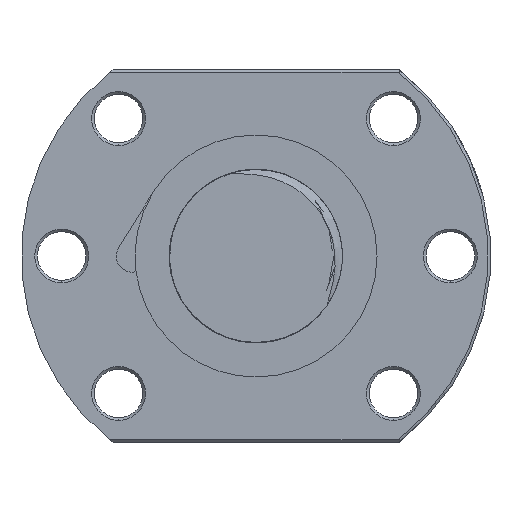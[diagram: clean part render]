
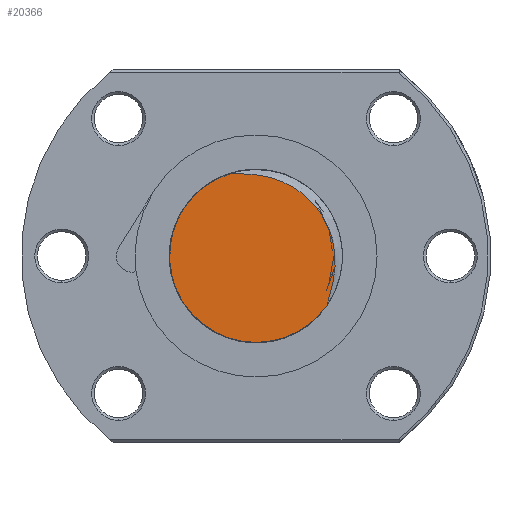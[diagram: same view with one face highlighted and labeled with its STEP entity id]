
A CAD part, left-side view. The second image highlights one B-rep face of the part: STEP entity #20366.
In plain terms, the highlighted planar face has unit normal (-1, 0, 0).
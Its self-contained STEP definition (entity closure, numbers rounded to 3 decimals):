
#667 = EDGE_CURVE ( 'NONE', #887, #797, #21647, .T. ) ;
#797 = VERTEX_POINT ( 'NONE', #22060 ) ;
#887 = VERTEX_POINT ( 'NONE', #22707 ) ;
#2801 = CARTESIAN_POINT ( 'NONE',  ( -176., -13.965, -6.145 ) ) ;
#2802 = CARTESIAN_POINT ( 'NONE',  ( -176., -13.645, -7.248 ) ) ;
#2803 = CARTESIAN_POINT ( 'NONE',  ( -176., -13.532, -7.614 ) ) ;
#2804 = CARTESIAN_POINT ( 'NONE',  ( -176., -13.37, -8.166 ) ) ;
#2805 = CARTESIAN_POINT ( 'NONE',  ( -176., -13.317, -8.35 ) ) ;
#2806 = CARTESIAN_POINT ( 'NONE',  ( -176., -13.223, -8.721 ) ) ;
#2807 = CARTESIAN_POINT ( 'NONE',  ( -176., -13.179, -8.909 ) ) ;
#2808 = CARTESIAN_POINT ( 'NONE',  ( -176., -13.16, -9.1 ) ) ;
#2809 = B_SPLINE_CURVE_WITH_KNOTS ( 'NONE', 3,
 ( #2808, #2807, #2806, #2805, #2804, #2803, #2802, #2801, #2859, #2858, #2857, #2856, #2855, #2854, #2853, #2852, #2851, #2850, #2849, #2848, #2847, #2846, #2845, #2844, #2843, #2842, #2841, #2840, #2839, #2838, #2837, #2836, #2835, #2834, #2833, #2832, #2831, #2830, #2829, #2828, #2827, #2826 ),
 .UNSPECIFIED., .F., .F.,
 ( 4, 2, 2, 2, 2, 2, 2, 2, 2, 2, 2, 2, 2, 2, 2, 2, 2, 2, 2, 2, 4 ),
 ( 0.005, 0.005, 0.006, 0.007, 0.009, 0.014, 0.015, 0.016, 0.019, 0.02, 0.021, 0.023, 0.025, 0.028, 0.03, 0.032, 0.037, 0.039, 0.04, 0.041, 0.041 ),
 .UNSPECIFIED. ) ;
#2817 = DIRECTION ( 'NONE',  ( 1., 0., 0. ) ) ;
#2818 = CARTESIAN_POINT ( 'NONE',  ( -176., 0., 0. ) ) ;
#2819 = AXIS2_PLACEMENT_3D ( 'NONE', #2818, #2817, #2892 ) ;
#2820 = PLANE ( 'NONE',  #2819 ) ;
#2821 = FACE_OUTER_BOUND ( 'NONE', #20365, .T. ) ;
#2826 = CARTESIAN_POINT ( 'NONE',  ( -176., 4.588, 15.328 ) ) ;
#2827 = CARTESIAN_POINT ( 'NONE',  ( -176., 4.397, 15.287 ) ) ;
#2828 = CARTESIAN_POINT ( 'NONE',  ( -176., 4.205, 15.271 ) ) ;
#2829 = CARTESIAN_POINT ( 'NONE',  ( -176., 3.82, 15.246 ) ) ;
#2830 = CARTESIAN_POINT ( 'NONE',  ( -176., 3.628, 15.239 ) ) ;
#2831 = CARTESIAN_POINT ( 'NONE',  ( -176., 3.05, 15.223 ) ) ;
#2832 = CARTESIAN_POINT ( 'NONE',  ( -176., 2.664, 15.217 ) ) ;
#2833 = CARTESIAN_POINT ( 'NONE',  ( -176., 1.508, 15.18 ) ) ;
#2834 = CARTESIAN_POINT ( 'NONE',  ( -176., 0.739, 15.131 ) ) ;
#2835 = CARTESIAN_POINT ( 'NONE',  ( -176., -1.557, 14.853 ) ) ;
#2836 = CARTESIAN_POINT ( 'NONE',  ( -176., -3.041, 14.496 ) ) ;
#2837 = CARTESIAN_POINT ( 'NONE',  ( -176., -5.18, 13.659 ) ) ;
#2838 = CARTESIAN_POINT ( 'NONE',  ( -176., -5.883, 13.327 ) ) ;
#2839 = CARTESIAN_POINT ( 'NONE',  ( -176., -7.215, 12.576 ) ) ;
#2840 = CARTESIAN_POINT ( 'NONE',  ( -176., -7.851, 12.157 ) ) ;
#2841 = CARTESIAN_POINT ( 'NONE',  ( -176., -9.059, 11.23 ) ) ;
#2842 = CARTESIAN_POINT ( 'NONE',  ( -176., -9.631, 10.722 ) ) ;
#2843 = CARTESIAN_POINT ( 'NONE',  ( -176., -10.708, 9.614 ) ) ;
#2844 = CARTESIAN_POINT ( 'NONE',  ( -176., -11.2, 9.028 ) ) ;
#2845 = CARTESIAN_POINT ( 'NONE',  ( -176., -12.092, 7.793 ) ) ;
#2846 = CARTESIAN_POINT ( 'NONE',  ( -176., -12.493, 7.144 ) ) ;
#2847 = CARTESIAN_POINT ( 'NONE',  ( -176., -13.025, 6.123 ) ) ;
#2848 = CARTESIAN_POINT ( 'NONE',  ( -176., -13.191, 5.774 ) ) ;
#2849 = CARTESIAN_POINT ( 'NONE',  ( -176., -13.497, 5.067 ) ) ;
#2850 = CARTESIAN_POINT ( 'NONE',  ( -176., -13.636, 4.71 ) ) ;
#2851 = CARTESIAN_POINT ( 'NONE',  ( -176., -14.013, 3.627 ) ) ;
#2852 = CARTESIAN_POINT ( 'NONE',  ( -176., -14.211, 2.892 ) ) ;
#2853 = CARTESIAN_POINT ( 'NONE',  ( -176., -14.431, 1.767 ) ) ;
#2854 = CARTESIAN_POINT ( 'NONE',  ( -176., -14.491, 1.389 ) ) ;
#2855 = CARTESIAN_POINT ( 'NONE',  ( -176., -14.586, 0.626 ) ) ;
#2856 = CARTESIAN_POINT ( 'NONE',  ( -176., -14.62, 0.24 ) ) ;
#2857 = CARTESIAN_POINT ( 'NONE',  ( -176., -14.724, -1.673 ) ) ;
#2858 = CARTESIAN_POINT ( 'NONE',  ( -176., -14.596, -3.178 ) ) ;
#2859 = CARTESIAN_POINT ( 'NONE',  ( -176., -14.156, -5.407 ) ) ;
#2892 = DIRECTION ( 'NONE',  ( 0., 0., -1. ) ) ;
#19607 = EDGE_CURVE ( 'NONE', #19676, #887, #23310, .T. ) ;
#19676 = VERTEX_POINT ( 'NONE', #23306 ) ;
#20358 = ORIENTED_EDGE ( 'NONE', *, *, #667, .F. ) ;
#20361 = ORIENTED_EDGE ( 'NONE', *, *, #20363, .T. ) ;
#20362 = ORIENTED_EDGE ( 'NONE', *, *, #19607, .F. ) ;
#20363 = EDGE_CURVE ( 'NONE', #19676, #797, #2809, .T. ) ;
#20365 = EDGE_LOOP ( 'NONE', ( #20362, #20361, #20358 ) ) ;
#20366 = ADVANCED_FACE ( 'NONE', ( #2821 ), #2820, .F. ) ;
#21643 = DIRECTION ( 'NONE',  ( 0., 1., 0. ) ) ;
#21644 = DIRECTION ( 'NONE',  ( 1., 0., 0. ) ) ;
#21645 = CARTESIAN_POINT ( 'NONE',  ( -176., 0., 0. ) ) ;
#21646 = AXIS2_PLACEMENT_3D ( 'NONE', #21645, #21644, #21643 ) ;
#21647 = CIRCLE ( 'NONE', #21646, 16. ) ;
#22060 = CARTESIAN_POINT ( 'NONE',  ( -176., 4.588, 15.328 ) ) ;
#22707 = CARTESIAN_POINT ( 'NONE',  ( -176., 0., -16. ) ) ;
#23285 = CARTESIAN_POINT ( 'NONE',  ( -176., 0., 0. ) ) ;
#23306 = CARTESIAN_POINT ( 'NONE',  ( -176., -13.16, -9.1 ) ) ;
#23307 = DIRECTION ( 'NONE',  ( 0., 1., 0. ) ) ;
#23308 = DIRECTION ( 'NONE',  ( 1., 0., 0. ) ) ;
#23309 = AXIS2_PLACEMENT_3D ( 'NONE', #23285, #23308, #23307 ) ;
#23310 = CIRCLE ( 'NONE', #23309, 16. ) ;
